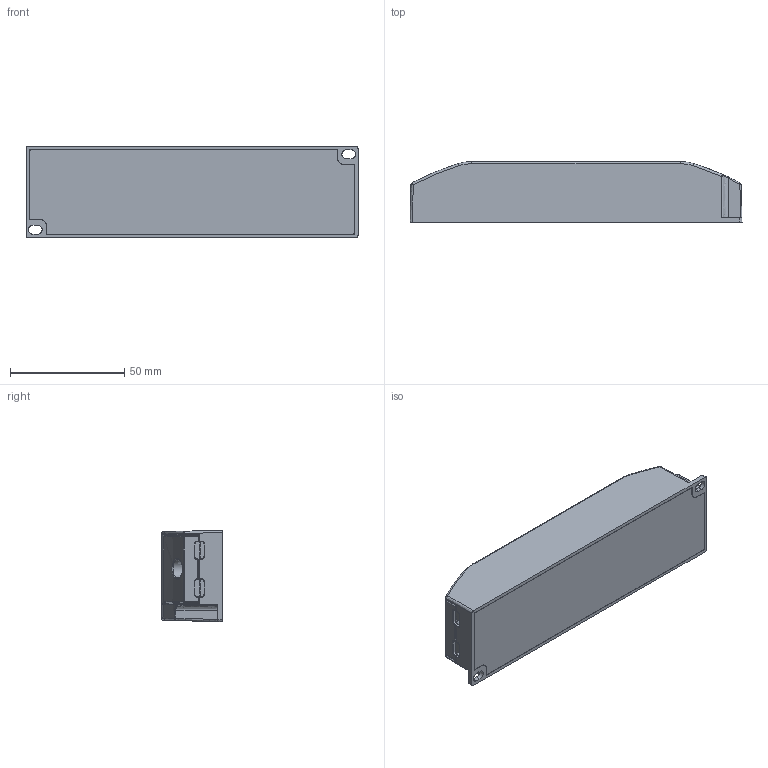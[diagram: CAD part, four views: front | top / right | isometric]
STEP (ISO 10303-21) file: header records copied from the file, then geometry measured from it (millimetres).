
FILE_DESCRIPTION(('HOOPS Exchange Step'),'2;1');
FILE_NAME('C:\Users\T.Zampieri\Documents\3 - OT\ELEMENT\ELEMENT 30 24V G2.stp','2019-12-04T11:23:24+01:00',('T.Zampieri'),('Unknown organisation'),'HOOPS Exchange 2018.2','HOOPS Exchange','Unknown authorisation');
FILE_SCHEMA( ('AUTOMOTIVE_DESIGN { 1 0 10303 214 1 1 1 1 }') );
Length unit declared in the file: millimetre
Products named in the file (1): Apri 28
Bounding box: 145 x 26.5 x 40 mm (x, y, z)
Volume: 33846.4 mm3; surface area: 49541.1 mm2
Topology: 4 solids, 4 shells, 939 faces, 2489 edges, 1563 vertices
Faces by surface type: bspline 939
Entity records: 30413 total; most frequent: CARTESIAN_POINT 16068, ORIENTED_EDGE 4948, EDGE_CURVE 2474, B_SPLINE_CURVE_WITH_KNOTS 1878, VERTEX_POINT 1563, EDGE_LOOP 973, FACE_BOUND 973, ADVANCED_FACE 939
